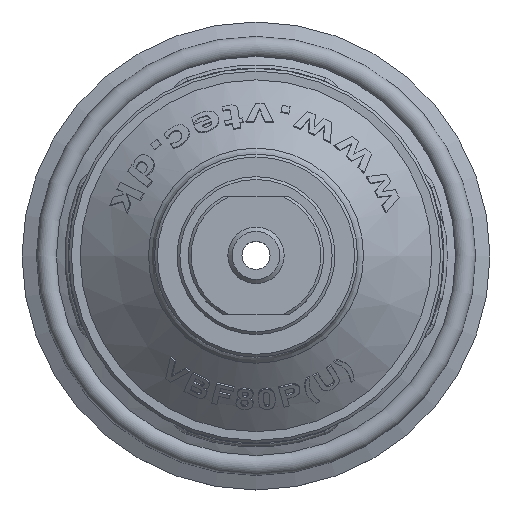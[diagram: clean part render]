
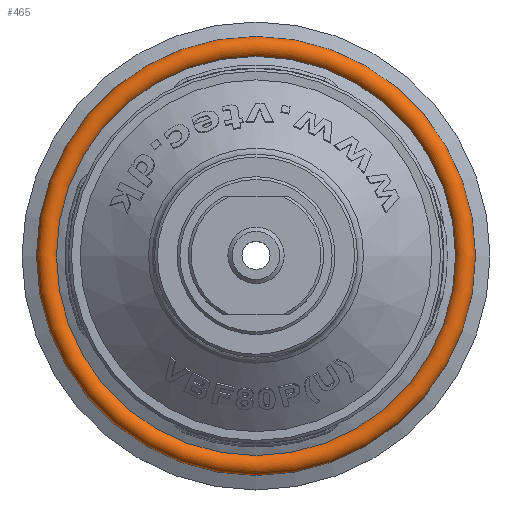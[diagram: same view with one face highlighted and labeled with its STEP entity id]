
A CAD part, top view. The second image highlights one B-rep face of the part: STEP entity #465.
In plain terms, the highlighted toroidal (fillet/blend) face has major radius 37.069 mm and minor radius 1.871 mm.
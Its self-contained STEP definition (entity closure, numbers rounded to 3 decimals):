
#465 = ADVANCED_FACE( '', ( #1127, #1128 ), #1129, .T. );
#1127 = FACE_OUTER_BOUND( '', #3805, .T. );
#1128 = FACE_OUTER_BOUND( '', #3806, .T. );
#1129 = TOROIDAL_SURFACE( '', #3807, 37.069, 1.871 );
#3805 = EDGE_LOOP( '', ( #8971 ) );
#3806 = EDGE_LOOP( '', ( #8972 ) );
#3807 = AXIS2_PLACEMENT_3D( '', #8973, #8974, #8975 );
#8971 = ORIENTED_EDGE( '', *, *, #10394, .F. );
#8972 = ORIENTED_EDGE( '', *, *, #10522, .T. );
#8973 = CARTESIAN_POINT( '', ( 0., 0., -20.793 ) );
#8974 = DIRECTION( '', ( 0., 0., 1. ) );
#8975 = DIRECTION( '', ( 1., 0., 0. ) );
#10394 = EDGE_CURVE( '', #11419, #11419, #11420, .T. );
#10522 = EDGE_CURVE( '', #11628, #11628, #11629, .T. );
#11419 = VERTEX_POINT( '', #14724 );
#11420 = CIRCLE( '', #14725, 35.402 );
#11628 = VERTEX_POINT( '', #15376 );
#11629 = CIRCLE( '', #15377, 38.736 );
#14724 = CARTESIAN_POINT( '', ( 35.402, 0., -19.943 ) );
#14725 = AXIS2_PLACEMENT_3D( '', #17899, #17900, #17901 );
#15376 = CARTESIAN_POINT( '', ( 38.736, 0., -21.642 ) );
#15377 = AXIS2_PLACEMENT_3D( '', #17953, #17954, #17955 );
#17899 = CARTESIAN_POINT( '', ( 0., 0., -19.943 ) );
#17900 = DIRECTION( '', ( 0., 0., 1. ) );
#17901 = DIRECTION( '', ( 1., 0., 0. ) );
#17953 = CARTESIAN_POINT( '', ( 0., 0., -21.642 ) );
#17954 = DIRECTION( '', ( 0., 0., 1. ) );
#17955 = DIRECTION( '', ( 1., 0., 0. ) );
